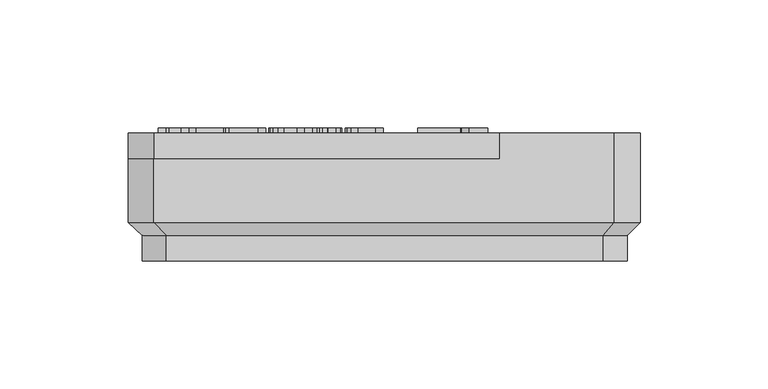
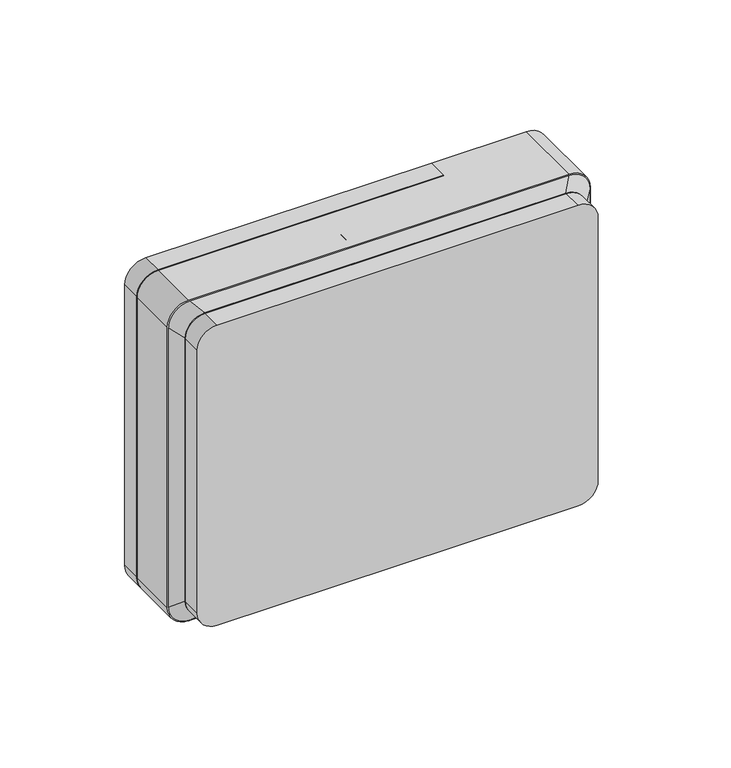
"""IFC4 building model written with IfcOpenShell, lengths in millimetres: proxy geometry, RBZ_ПриборПриемноКонтрольный_Рубеж_Рубеж-2ОП_прот.R3 : Рубеж-2ОП прот. R3."""

from ifc_helpers import new_model, si_unit, point, frame, frame_2d, origin, place, context, project, spatial, polyline, circle_curve, trimmed, segment, composite_curve, outline, extrude, source, transform, mapped, element, save
from ifc_brep_helpers import plane_surface, cylinder_surface, revolved_surface, spline_surface, advanced_brep


def electrical_equipment_94ab21d5(model_context):
    return source(origin(), model_context, "Body", "SolidModel", [
        extrude(outline(composite_curve([segment(polyline([(57.5, 44.75), (160.0, 44.75), (160.0, -90.25)]), True, "CONTINUOUS"), segment(trimmed(circle_curve(frame_2d((150.0, -90.25)), 10.0), [point((160.0, -90.25))], [point((150.0, -100.25))], False, "CARTESIAN"), True, "CONTINUOUS"), segment(polyline([(150.0, -100.25), (10.0, -100.25)]), True, "CONTINUOUS"), segment(trimmed(circle_curve(frame_2d((10.0, -90.25)), 10.0), [point((10.0, -100.25))], [point((0.0, -90.25))], False, "CARTESIAN"), True, "CONTINUOUS"), segment(polyline([(0.0, -90.25), (0.0, 44.75), (32.5, 44.75)]), True, "CONTINUOUS"), segment(trimmed(circle_curve(frame_2d((45.0, 44.75)), 12.5), [point((32.5, 44.75))], [point((57.5, 44.75))], False, "CARTESIAN"), True, "CONTINUOUS")], self_intersect=False)), frame((0.0, 40.0, 0.0), z_axis=(0.0, 1.0, 0.0), x_axis=(0.0, 0.0, 1.0)), (0.0, 0.0, 1.0), 10.0),
        advanced_brep(
        [(89.75, 50.0, 160.0), (99.75, 50.0, 150.0), (99.75, 50.0, 10.0), (89.75, 50.0, 0.0), (44.75, 50.0, 0.0), (44.75, 50.0, 32.5), (44.75, 50.0, 57.5), (44.75, 50.0, 160.0), (-90.25, 15.0, 0.0), (89.75, 15.0, 0.0), (99.75, 15.0, 10.0), (99.75, 15.0, 150.0), (89.75, 15.0, 160.0), (-90.25, 15.0, 160.0), (-100.25, 15.0, 150.0), (-100.25, 15.0, 10.0), (-90.25, 40.0, 0.0), (44.75, 40.0, 0.0), (44.75, 40.0, 160.0), (-90.25, 40.0, 160.0), (-100.25, 40.0, 150.0), (-100.25, 40.0, 10.0), (44.75, 40.0, 57.5), (44.75, 40.0, 32.5)],
        [
            (0, 1, circle_curve(frame((89.75, 50.0, 150.0), z_axis=(0.0, 1.0, 0.0), x_axis=(-1.0, 0.0, 0.0)), 10.0)),
            (1, 2),
            (2, 3, circle_curve(frame((89.75, 50.0, 10.0), z_axis=(0.0, 1.0, 0.0), x_axis=(-1.0, 0.0, 0.0)), 10.0)),
            (3, 4),
            (4, 5),
            (5, 6, circle_curve(frame((44.75, 50.0, 45.0), z_axis=(0.0, -1.0, 0.0), x_axis=(1.0, 0.0, 0.0)), 12.5)),
            (6, 7),
            (7, 0),
            (8, 9),
            (9, 10, circle_curve(frame((89.75, 15.0, 10.0), z_axis=(0.0, -1.0, 0.0), x_axis=(-1.0, 0.0, 0.0)), 10.0)),
            (10, 11),
            (11, 12, circle_curve(frame((89.75, 15.0, 150.0), z_axis=(0.0, -1.0, 0.0), x_axis=(-1.0, 0.0, 0.0)), 10.0)),
            (12, 13),
            (13, 14, circle_curve(frame((-90.25, 15.0, 150.0), z_axis=(0.0, -1.0, 0.0), x_axis=(-1.0, 0.0, 0.0)), 10.0)),
            (14, 15),
            (15, 8, circle_curve(frame((-90.25, 15.0, 10.0), z_axis=(0.0, -1.0, 0.0), x_axis=(-1.0, 0.0, 0.0)), 10.0)),
            (8, 16),
            (16, 17),
            (17, 4),
            (3, 9),
            (2, 10),
            (1, 11),
            (0, 12),
            (7, 18),
            (18, 19),
            (19, 13),
            (19, 20, circle_curve(frame((-90.25, 40.0, 150.0), z_axis=(0.0, -1.0, 0.0), x_axis=(-1.0, 0.0, 0.0)), 10.0)),
            (20, 14),
            (20, 21),
            (21, 15),
            (21, 16, circle_curve(frame((-90.25, 40.0, 10.0), z_axis=(0.0, -1.0, 0.0), x_axis=(-1.0, 0.0, 0.0)), 10.0)),
            (18, 22),
            (22, 23, circle_curve(frame((44.75, 40.0, 45.0), z_axis=(0.0, 1.0, 0.0), x_axis=(1.0, 0.0, 0.0)), 12.5)),
            (23, 17),
            (6, 22),
            (5, 23),
        ],
        [
            plane_surface(frame((-100.25, 50.0, 10.0), z_axis=(0.0, 1.0, 0.0), x_axis=(0.0, 0.0, 1.0))),
            plane_surface(frame((-100.25, 15.0, 10.0), z_axis=(0.0, -1.0, 0.0), x_axis=(0.0, 0.0, -1.0))),
            plane_surface(frame((89.75, 50.0, 0.0), z_axis=(0.0, 0.0, -1.0), x_axis=(0.0, -1.0, 0.0))),
            cylinder_surface(frame((89.75, 15.0, 10.0), z_axis=(0.0, 1.0, 0.0), x_axis=(-1.0, 0.0, 0.0)), 10.0),
            plane_surface(frame((99.75, 50.0, 150.0), z_axis=(1.0, 0.0, 0.0), x_axis=(0.0, -1.0, 0.0))),
            cylinder_surface(frame((89.75, 15.0, 150.0), z_axis=(0.0, 1.0, 0.0), x_axis=(-1.0, 0.0, 0.0)), 10.0),
            plane_surface(frame((-90.25, 50.0, 160.0), z_axis=(0.0, 0.0, 1.0), x_axis=(0.0, -1.0, 0.0))),
            cylinder_surface(frame((-90.25, 15.0, 150.0), z_axis=(0.0, 1.0, 0.0), x_axis=(-1.0, 0.0, 0.0)), 10.0),
            plane_surface(frame((-100.25, 50.0, 10.0), z_axis=(-1.0, 0.0, 0.0), x_axis=(0.0, -1.0, 0.0))),
            cylinder_surface(frame((-90.25, 15.0, 10.0), z_axis=(0.0, 1.0, 0.0), x_axis=(-1.0, 0.0, 0.0)), 10.0),
            plane_surface(frame((-100.25, 40.0, 10.0), z_axis=(0.0, 1.0, 0.0), x_axis=(0.0, 0.0, -1.0))),
            plane_surface(frame((44.75, 40.0, 57.5), z_axis=(-1.0, 0.0, 0.0), x_axis=(0.0, 1.0, 0.0))),
            revolved_surface(polyline([(57.25, 40.0, 45.0), (57.25, 50.0, 45.0)]), (44.75, 50.0, 45.0), (0.0, -1.0, 0.0)),
            plane_surface(frame((44.75, 40.0, 0.0), z_axis=(-1.0, 0.0, 0.0), x_axis=(0.0, 1.0, 0.0))),
        ],
        [
            (0, [[1, 2, 3, 4, 5, 6, 7, 8]]),
            (1, [[9, 10, 11, 12, 13, 14, 15, 16]]),
            (2, [[-9, 17, 18, 19, -4, 20]]),
            (3, [[-3, 21, -10, -20]]),
            (4, [[-2, 22, -11, -21]]),
            (5, [[-1, 23, -12, -22]]),
            (6, [[-13, -23, -8, 24, 25, 26]]),
            (7, [[-14, -26, 27, 28]]),
            (8, [[-15, -28, 29, 30]]),
            (9, [[-16, -30, 31, -17]]),
            (10, [[32, 33, 34, -18, -31, -29, -27, -25]]),
            (11, [[-32, -24, -7, 35]]),
            (12, [[-33, -35, -6, 36]]),
            (13, [[-34, -36, -5, -19]]),
        ],
    ),
        advanced_brep(
        [(89.75, 15.0, 160.0), (99.75, 15.0, 150.0), (99.75, 15.0, 10.0), (89.75, 15.0, 0.0), (-90.25, 15.0, 0.0), (-100.25, 15.0, 10.0), (-100.25, 15.0, 150.0), (-90.25, 15.0, 160.0), (85.375, 10.0, 155.0), (-85.375, 10.0, 155.0), (-94.75, 10.0, 145.625), (-94.75, 10.0, 14.375), (-85.375, 10.0, 5.0), (85.375, 10.0, 5.0), (94.75, 10.0, 14.375), (94.75, 10.0, 145.625)],
        [
            (0, 1, circle_curve(frame((89.75, 15.0, 150.0), z_axis=(0.0, 1.0, 0.0), x_axis=(0.0, 0.0, -1.0)), 10.0)),
            (1, 2),
            (2, 3, circle_curve(frame((89.75, 15.0, 10.0), z_axis=(0.0, 1.0, 0.0), x_axis=(0.0, 0.0, -1.0)), 10.0)),
            (3, 4),
            (4, 5, circle_curve(frame((-90.25, 15.0, 10.0), z_axis=(0.0, 1.0, 0.0), x_axis=(0.0, 0.0, -1.0)), 10.0)),
            (5, 6),
            (6, 7, circle_curve(frame((-90.25, 15.0, 150.0), z_axis=(0.0, 1.0, 0.0), x_axis=(0.0, 0.0, -1.0)), 10.0)),
            (7, 0),
            (8, 9),
            (9, 10, circle_curve(frame((-85.375, 10.0, 145.625), z_axis=(0.0, -1.0, 0.0), x_axis=(0.0, 0.0, -1.0)), 9.375)),
            (10, 11),
            (11, 12, circle_curve(frame((-85.375, 10.0, 14.375), z_axis=(0.0, -1.0, 0.0), x_axis=(0.0, 0.0, -1.0)), 9.375)),
            (12, 13),
            (13, 14, circle_curve(frame((85.375, 10.0, 14.375), z_axis=(0.0, -1.0, 0.0), x_axis=(0.0, 0.0, -1.0)), 9.375)),
            (14, 15),
            (15, 8, circle_curve(frame((85.375, 10.0, 145.625), z_axis=(0.0, -1.0, 0.0), x_axis=(0.0, 0.0, -1.0)), 9.375)),
            (15, 1),
            (0, 8),
            (14, 2),
            (13, 3),
            (12, 4),
            (11, 5),
            (10, 6),
            (9, 7),
        ],
        [
            plane_surface(frame((-0.25, 15.0, 80.0), z_axis=(0.0, 1.0, 0.0), x_axis=(1.0, 0.0, 0.0))),
            plane_surface(frame((0.0, 10.0, 80.0), z_axis=(0.0, -1.0, 0.0), x_axis=(1.0, 0.0, 0.0))),
            spline_surface(2, 1, [[(85.375, 10.0, 155.0), (89.75, 15.0, 160.0)], [(94.75, 10.0, 155.0), (99.75, 15.0, 160.0)], [(94.75, 10.0, 145.625), (99.75, 15.0, 150.0)]], [3, 3], [2, 2], [0.0, 1.0], [0.0, 1.0], weights=[[1.0, 1.0], [0.7071067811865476, 0.7071067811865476], [1.0, 1.0]]),
            plane_surface(frame((94.75, 10.0, 80.0), z_axis=(0.7071067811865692, -0.7071067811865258, 0.0), x_axis=(0.0, 0.0, -1.0))),
            spline_surface(2, 1, [[(94.75, 10.0, 14.375), (99.75, 15.0, 10.0)], [(94.75, 10.0, 5.0), (99.75, 15.0, 0.0)], [(85.375, 10.0, 5.0), (89.75, 15.0, 0.0)]], [3, 3], [2, 2], [0.0, 1.0], [0.0, 1.0], weights=[[1.0, 1.0], [0.7071067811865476, 0.7071067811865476], [1.0, 1.0]]),
            plane_surface(frame((0.0, 10.0, 5.0), z_axis=(0.0, -0.7071067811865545, -0.7071067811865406), x_axis=(-1.0, 0.0, 0.0))),
            spline_surface(2, 1, [[(-85.375, 10.0, 5.0), (-90.25, 15.0, 0.0)], [(-94.75, 10.0, 5.0), (-100.25, 15.0, 0.0)], [(-94.75, 10.0, 14.375), (-100.25, 15.0, 10.0)]], [3, 3], [2, 2], [0.0, 1.0], [0.0, 1.0], weights=[[1.0, 1.0], [0.7071067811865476, 0.7071067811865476], [1.0, 1.0]]),
            plane_surface(frame((-94.75, 10.0, 80.0), z_axis=(-0.6726727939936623, -0.739940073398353, 0.0), x_axis=(0.0, 0.0, 1.0))),
            spline_surface(2, 1, [[(-94.75, 10.0, 145.625), (-100.25, 15.0, 150.0)], [(-94.75, 10.0, 155.0), (-100.25, 15.0, 160.0)], [(-85.375, 10.0, 155.0), (-90.25, 15.0, 160.0)]], [3, 3], [2, 2], [0.0, 1.0], [0.0, 1.0], weights=[[1.0, 1.0], [0.7071067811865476, 0.7071067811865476], [1.0, 1.0]]),
            plane_surface(frame((0.0, 10.0, 155.0), z_axis=(0.0, -0.7071067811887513, 0.7071067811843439), x_axis=(1.0, 0.0, 0.0))),
        ],
        [
            (0, [[1, 2, 3, 4, 5, 6, 7, 8]]),
            (1, [[9, 10, 11, 12, 13, 14, 15, 16]]),
            (2, [[-16, 17, -1, 18]]),
            (3, [[-15, 19, -2, -17]]),
            (4, [[-14, 20, -3, -19]]),
            (5, [[-13, 21, -4, -20]]),
            (6, [[-12, 22, -5, -21]]),
            (7, [[-11, 23, -6, -22]]),
            (8, [[-10, 24, -7, -23]]),
            (9, [[-9, -18, -8, -24]]),
        ],
    ),
        extrude(outline(composite_curve([segment(trimmed(circle_curve(frame_2d((14.375, 85.375)), 9.375), [point((5.0, 85.375))], [point((14.375, 94.75))], False, "CARTESIAN"), True, "CONTINUOUS"), segment(polyline([(14.375, 94.75), (145.625, 94.75)]), True, "CONTINUOUS"), segment(trimmed(circle_curve(frame_2d((145.625, 85.375)), 9.375), [point((145.625, 94.75))], [point((155.0, 85.375))], False, "CARTESIAN"), True, "CONTINUOUS"), segment(polyline([(155.0, 85.375), (155.0, -85.375)]), True, "CONTINUOUS"), segment(trimmed(circle_curve(frame_2d((145.625, -85.375)), 9.375), [point((155.0, -85.375))], [point((145.625, -94.75))], False, "CARTESIAN"), True, "CONTINUOUS"), segment(polyline([(145.625, -94.75), (14.375, -94.75)]), True, "CONTINUOUS"), segment(trimmed(circle_curve(frame_2d((14.375, -85.375)), 9.375), [point((14.375, -94.75))], [point((5.0, -85.375))], False, "CARTESIAN"), True, "CONTINUOUS"), segment(polyline([(5.0, -85.375), (5.0, 85.375)]), True, "CONTINUOUS")], self_intersect=False)), frame((0.0, 0.0, 0.0), z_axis=(0.0, 1.0, 0.0), x_axis=(0.0, 0.0, 1.0)), (0.0, 0.0, 1.0), 10.0),
        extrude(outline(polyline([(51.0507605, 29.7628), (51.0507605, 12.9121739), (42.8357533, 16.2312523), (42.8357533, 19.4440673), (34.1781969, 13.1539844), (34.1781969, 17.7343439), (38.0262884, 20.2333237), (38.0262884, 40.2333237), (56.1441166, 32.913246), (52.4029444, 30.1951252), (41.5787184, 34.5683964), (41.5787184, 23.1657907), (45.9600527, 26.0110625), (45.9600527, 18.8626856), (47.4649656, 18.2546613), (47.4649656, 27.1336984), (42.8357533, 29.0040216), (42.8357533, 33.0818784), (51.0507605, 29.7628)])), frame((0.0, 50.0, 0.0), z_axis=(0.0, 1.0, 0.0), x_axis=(0.0, 0.0, 1.0)), (0.0, 0.0, 1.0), 2.0),
        extrude(outline(polyline([(35.6780225, -3.5048152), (35.6780225, -0.5366498), (50.9819135, -3.6566395), (50.9819135, -10.4507776), (50.6213307, -13.1798197), (49.3004592, -14.754997), (46.9737515, -15.354703), (43.7531782, -14.1951448), (42.1798988, -10.6936965), (40.7527502, -11.8171965), (35.6780225, -14.1401085), (35.6780225, -10.9821627), (39.7051624, -9.285526), (41.694061, -7.8204214), (41.993914, -6.1579451), (35.6780225, -3.5048152)]), holes=[polyline([(44.1801841, -5.239408), (44.1801841, -7.0081613), (44.5028108, -10.5684415), (45.5124425, -11.9424515), (48.5527244, -9.8055243), (48.5527244, -6.1313759), (44.1801841, -5.239408)])]), frame((0.0, 50.0, 0.0), z_axis=(0.0, 1.0, 0.0), x_axis=(0.0, 0.0, 1.0)), (0.0, 0.0, 1.0), 2.0),
        extrude(outline(polyline([(50.9819135, -18.9833042), (50.9819135, -21.9514695), (42.6050069, -20.2472416), (40.5781523, -19.8335203), (38.1072115, -22.4335117), (38.5228306, -24.4205125), (39.7583009, -25.635107), (42.5404815, -26.506199), (50.9819135, -28.2142225), (50.9819135, -31.1785923), (42.293767, -29.4212259), (38.441225, -28.1477994), (36.2720351, -25.9672227), (35.4351036, -22.2703006), (36.7256102, -18.1786353), (40.0429715, -16.7590779), (42.8213565, -17.3246235), (50.9819135, -18.9833042)])), frame((0.0, 50.0, 0.0), z_axis=(0.0, 1.0, 0.0), x_axis=(0.0, 0.0, 1.0)), (0.0, 0.0, 1.0), 2.0),
        extrude(outline(polyline([(35.6780225, -31.1444318), (50.9819135, -34.2682171), (50.9819135, -39.4264482), (50.8756364, -41.7759295), (50.2474633, -43.658551), (48.9892193, -44.8313939), (47.2470353, -45.2337283), (45.0285025, -44.5713947), (43.6070473, -42.5236643), (42.458876, -44.1595713), (40.5933347, -44.7478905), (37.9914455, -43.9830755), (36.2188966, -41.8727175), (35.6780225, -38.1890801), (35.6780225, -31.1444318)]), holes=[polyline([(44.6660219, -35.9420802), (44.6660219, -38.431999), (44.9127365, -40.8460056), (48.5527244, -39.2670327), (48.5527244, -36.7353622), (44.6660219, -35.9420802)]), polyline([(38.1072115, -34.6060262), (38.1072115, -37.7260159), (38.3615172, -40.35827), (42.2368329, -39.3163756), (42.2368329, -35.4486512), (38.1072115, -34.6060262)])]), frame((0.0, 50.0, 0.0), z_axis=(0.0, 1.0, 0.0), x_axis=(0.0, 0.0, 1.0)), (0.0, 0.0, 1.0), 2.0),
        extrude(outline(polyline([(35.6780225, -46.4483228), (50.9819135, -49.5683125), (50.9819135, -60.7805382), (48.5527244, -60.0517815), (48.5527244, -52.0392532), (44.9089409, -51.2991097), (44.9089409, -59.5659437), (42.4797518, -58.837187), (42.4797518, -50.8018851), (38.1072115, -49.9099172), (38.1072115, -58.837187), (35.6780225, -58.1084303), (35.6780225, -46.4483228)])), frame((0.0, 50.0, 0.0), z_axis=(0.0, 1.0, 0.0), x_axis=(0.0, 0.0, 1.0)), (0.0, 0.0, 1.0), 2.0),
        extrude(outline(polyline([(35.6780225, -60.0517815), (38.1072115, -60.560393), (48.5527244, -69.3054735), (48.5527244, -62.2380516), (50.9819135, -62.9668084), (50.9819135, -73.6552402), (48.5527244, -73.1694024), (38.0578686, -64.4243218), (38.0882335, -66.0146815), (38.1072115, -68.6943807), (38.1072115, -72.1977267), (35.6780225, -71.46897), (35.6780225, -60.0517815)])), frame((0.0, 50.0, 0.0), z_axis=(0.0, 1.0, 0.0), x_axis=(0.0, 0.0, 1.0)), (0.0, 0.0, 1.0), 2.0),
        extrude(outline(polyline([(42.7226707, -83.8388561), (42.7226707, -77.819022), (35.6780225, -76.3804866), (35.6780225, -73.4123213), (50.9819135, -76.5323109), (50.9819135, -79.4966807), (45.1518598, -78.3086554), (45.1518598, -84.3284895), (50.9819135, -85.5203104), (50.9819135, -88.4846802), (35.6780225, -85.3684861), (35.6780225, -82.4003207), (42.7226707, -83.8388561)])), frame((0.0, 50.0, 0.0), z_axis=(0.0, 1.0, 0.0), x_axis=(0.0, 0.0, 1.0)), (0.0, 0.0, 1.0), 2.0),
        extrude(outline(polyline([(139.2842599, 10.6293935), (139.2842599, 12.6081704), (149.4868539, 10.5281773), (149.4868539, 6.3681911), (149.2262221, 4.6146202), (148.3633539, 3.5923365), (146.9235534, 3.2153061), (145.4204926, 3.5189548), (144.2501802, 4.2654243), (143.5846836, 5.2168567), (143.2418137, 6.5883363), (143.1709624, 8.4709578), (143.1709624, 9.8348463), (139.2842599, 10.6293935)]), holes=[polyline([(144.7904217, 9.5058936), (145.0080366, 6.4390424), (145.7064284, 5.5015273), (146.7616074, 5.1586574), (147.8673945, 7.2563633), (147.8673945, 8.8783531), (144.7904217, 9.5058936)])]), frame((0.0, 40.0, 0.0), z_axis=(0.0, 1.0, 0.0), x_axis=(0.0, 0.0, 1.0)), (0.0, 0.0, 1.0), 2.0),
        extrude(outline(polyline([(149.4868539, 1.977938), (149.4868539, -0.0236126), (144.036361, -1.2837544), (149.4868539, -5.2058826), (149.4868539, -7.5616899), (140.8733544, -0.9674538), (139.460123, 0.3888435), (139.1223139, 1.7071846), (139.2690774, 3.0533602), (140.8328679, 2.7294683), (140.7417733, 1.9501035), (140.902454, 1.135313), (142.1714523, 0.0573604), (149.4868539, 1.977938)])), frame((0.0, 40.0, 0.0), z_axis=(0.0, 1.0, 0.0), x_axis=(0.0, 0.0, 1.0)), (0.0, 0.0, 1.0), 2.0),
        extrude(outline(polyline([(147.8673945, -10.0870343), (145.6001514, -9.6214397), (145.6001514, -11.3927234), (145.3357241, -13.7611827), (144.3665788, -14.9821033), (142.7154894, -15.4084766), (140.2534051, -14.3583584), (139.2842599, -11.2636728), (139.2842599, -6.3395041), (149.4868539, -8.4448013), (149.4868539, -15.8841928), (147.8673945, -15.4464327), (147.8673945, -10.0870343)]), holes=[polyline([(140.9037192, -8.6522945), (140.9037192, -10.8436255), (141.0302395, -12.2745697), (141.5742766, -13.107073), (142.5687259, -13.4651253), (143.4214725, -13.1829851), (143.8756802, -12.4441068), (143.980692, -11.0587099), (143.980692, -9.2848958), (140.9037192, -8.6522945)])]), frame((0.0, 40.0, 0.0), z_axis=(0.0, 1.0, 0.0), x_axis=(0.0, 0.0, 1.0)), (0.0, 0.0, 1.0), 2.0),
        extrude(outline(polyline([(139.2842599, -16.3801522), (149.4868539, -18.4601453), (149.4868539, -25.9349624), (147.8673945, -25.4491246), (147.8673945, -20.1074391), (145.4382055, -19.6140101), (145.4382055, -25.1252328), (143.8187461, -24.639395), (143.8187461, -19.282527), (140.9037192, -18.6878818), (140.9037192, -24.639395), (139.2842599, -24.1535571), (139.2842599, -16.3801522)])), frame((0.0, 40.0, 0.0), z_axis=(0.0, 1.0, 0.0), x_axis=(0.0, 0.0, 1.0)), (0.0, 0.0, 1.0), 2.0),
        extrude(outline(polyline([(149.4868539, -32.4127999), (149.4868539, -34.3915768), (145.1143136, -33.4907525), (145.478692, -34.3903116), (147.3107054, -35.6618403), (148.5936208, -36.5133216), (149.2325482, -37.4343891), (149.4868539, -38.9210022), (149.4868539, -39.7079583), (147.8344992, -39.3410495), (147.6042324, -37.8860665), (146.2985433, -37.0459719), (144.3855569, -35.2696274), (142.6142732, -36.4007186), (139.2842599, -37.4331239), (139.2842599, -35.4062693), (142.1663915, -34.5130363), (143.2506701, -33.912065), (143.4948542, -33.1542086), (139.2842599, -32.2862796), (139.2842599, -30.3075027), (143.4948542, -31.1754317), (139.2842599, -27.455736), (139.2842599, -25.1429456), (142.887557, -27.5923779), (144.3855569, -29.6318845), (145.0915399, -28.9689183), (146.7034081, -28.5362191), (147.6801445, -28.2452224), (149.4868539, -27.349459), (149.2338134, -29.1473119), (148.494935, -29.7811784), (147.0222392, -30.259425), (145.4002494, -30.7541193), (149.4868539, -32.4127999)])), frame((0.0, 40.0, 0.0), z_axis=(0.0, 1.0, 0.0), x_axis=(0.0, 0.0, 1.0)), (0.0, 0.0, 1.0), 2.0),
        extrude(outline(polyline([(143.980692, -39.0525833), (143.980692, -42.9392858), (142.0373408, -42.6153939), (142.0373408, -38.7286914), (143.980692, -39.0525833)])), frame((0.0, 40.0, 0.0), z_axis=(0.0, 1.0, 0.0), x_axis=(0.0, 0.0, 1.0)), (0.0, 0.0, 1.0), 2.0),
        extrude(outline(polyline([(146.2479352, -46.6640423), (146.5338709, -44.7206911), (148.7252019, -45.7935829), (149.4868539, -47.9014105), (148.7138151, -50.0826198), (146.7514858, -50.8746367), (145.5368913, -50.6355134), (144.2590366, -49.8498225), (142.9204522, -48.5631115), (141.7374878, -47.3814122), (141.0656652, -46.8259883), (141.0656652, -50.2268529), (139.2842599, -49.902961), (139.2842599, -43.7490155), (140.6987564, -44.1779192), (141.9475114, -45.0129529), (143.8136853, -46.8437011), (145.0864791, -48.1063733), (146.0151379, -48.7554223), (147.5510939, -48.6491452), (147.8673945, -47.9343058), (147.5169334, -47.1637974), (146.2479352, -46.6640423)])), frame((0.0, 40.0, 0.0), z_axis=(0.0, 1.0, 0.0), x_axis=(0.0, 0.0, 1.0)), (0.0, 0.0, 1.0), 2.0),
        extrude(outline(polyline([(143.2924218, -52.0082582), (145.1927562, -52.2739508), (147.5194638, -53.3329254), (149.0769282, -55.1269827), (149.6487998, -57.5928626), (148.475957, -60.5850668), (145.3673541, -61.7250144), (142.2524252, -60.9823405), (139.934574, -58.9668727), (139.1223139, -56.0872715), (139.7675673, -53.7441162), (141.3667834, -52.4030014), (143.2924218, -52.0082582)]), holes=[polyline([(143.3430299, -53.9516095), (141.6046415, -54.5993932), (140.9037192, -56.3023559), (141.4566128, -57.9547106), (143.1342715, -59.2641953), (145.3243372, -59.7816632), (147.1905111, -59.1262882), (147.8673945, -57.4587511), (146.4516328, -54.9270807), (143.3430299, -53.9516095)])]), frame((0.0, 40.0, 0.0), z_axis=(0.0, 1.0, 0.0), x_axis=(0.0, 0.0, 1.0)), (0.0, 0.0, 1.0), 2.0),
        extrude(outline(polyline([(149.4868539, -64.4780953), (149.4868539, -72.4488719), (139.2842599, -70.3435747), (139.2842599, -68.3647978), (147.8673945, -70.1360815), (147.8673945, -66.1203283), (139.2842599, -64.3515751), (139.2842599, -62.3727982), (149.4868539, -64.4780953)])), frame((0.0, 40.0, 0.0), z_axis=(0.0, 1.0, 0.0), x_axis=(0.0, 0.0, 1.0)), (0.0, 0.0, 1.0), 2.0),
    ])


if __name__ == "__main__":
    model = new_model("IFC4")
    model_context = context("Model", 3, world=origin())
    ifc_project = project(units=[si_unit("LENGTHUNIT", "METRE", prefix="MILLI")], contexts=[model_context])
    site = spatial("IfcSite", under=ifc_project)
    building = spatial("IfcBuilding", under=site)
    placement = place(None, origin())
    electrical_equipment_shape = electrical_equipment_94ab21d5(model_context)
    element("IfcBuildingElementProxy", 1, Name="RBZ_ПриборПриемноКонтрольный_Рубеж_Рубеж-2ОП_прот.R3 : Рубеж-2ОП прот. R3", ObjectType="RBZ_ПриборПриемноКонтрольный_Рубеж_Рубеж-2ОП_прот.R3 : Рубеж-2ОП прот. R3", at=placement, inside=building, context=model_context, shape_type="MappedRepresentation", body=[
        mapped(electrical_equipment_shape, transform((0.0, 0.0, 0.0), x_axis=(1.0, 0.0, 0.0), y_axis=(0.0, 1.0, 0.0), z_axis=(0.0, 0.0, 1.0))),
    ])
    save(model, "model.ifc")
